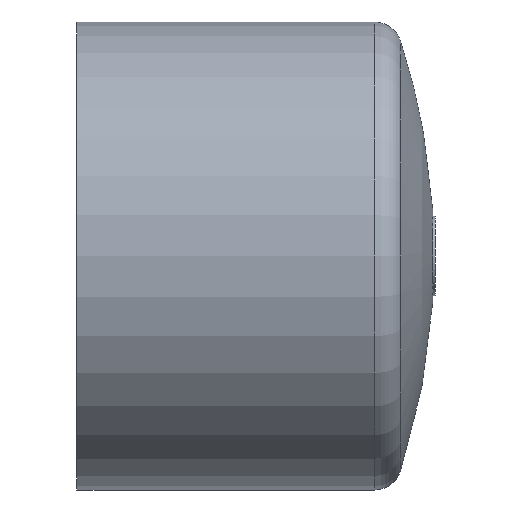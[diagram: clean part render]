
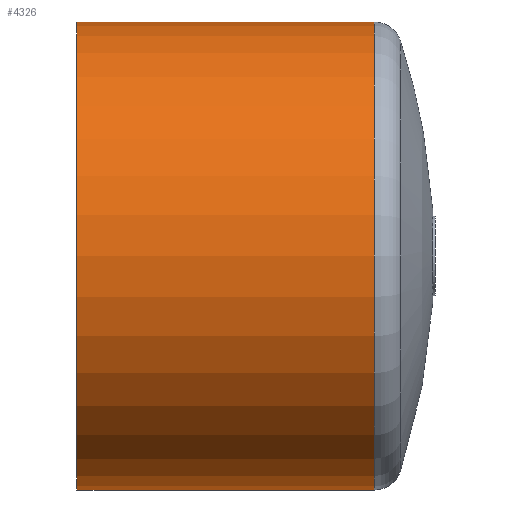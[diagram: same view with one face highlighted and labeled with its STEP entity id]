
A CAD part, front view. The second image highlights one B-rep face of the part: STEP entity #4326.
In plain terms, the highlighted cylindrical face has radius 100 mm (diameter 200 mm), a full revolution.
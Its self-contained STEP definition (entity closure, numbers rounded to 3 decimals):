
#177=CYLINDRICAL_SURFACE('',#4757,100.);
#1205=ORIENTED_EDGE('',*,*,#2522,.T.);
#1206=ORIENTED_EDGE('',*,*,#2521,.F.);
#2521=EDGE_CURVE('',#3180,#3180,#3419,.T.);
#2522=EDGE_CURVE('',#3181,#3181,#3420,.T.);
#3180=VERTEX_POINT('',#7384);
#3181=VERTEX_POINT('',#7387);
#3419=CIRCLE('',#4756,100.);
#3420=CIRCLE('',#4758,100.);
#3676=EDGE_LOOP('',(#1205));
#3677=EDGE_LOOP('',(#1206));
#3988=FACE_BOUND('',#3676,.T.);
#3989=FACE_BOUND('',#3677,.T.);
#4326=ADVANCED_FACE('',(#3988,#3989),#177,.T.);
#4756=AXIS2_PLACEMENT_3D('',#7383,#5420,#5421);
#4757=AXIS2_PLACEMENT_3D('',#7385,#5422,#5423);
#4758=AXIS2_PLACEMENT_3D('',#7386,#5424,#5425);
#5420=DIRECTION('',(-1.,0.,0.));
#5421=DIRECTION('',(0.,0.,1.));
#5422=DIRECTION('',(-1.,0.,0.));
#5423=DIRECTION('',(0.,0.,1.));
#5424=DIRECTION('',(-1.,0.,0.));
#5425=DIRECTION('',(0.,0.,1.));
#7383=CARTESIAN_POINT('',(0.,0.,0.));
#7384=CARTESIAN_POINT('',(0.,0.,100.));
#7385=CARTESIAN_POINT('',(60.,0.,0.));
#7386=CARTESIAN_POINT('',(127.,0.,0.));
#7387=CARTESIAN_POINT('',(127.,0.,100.));
